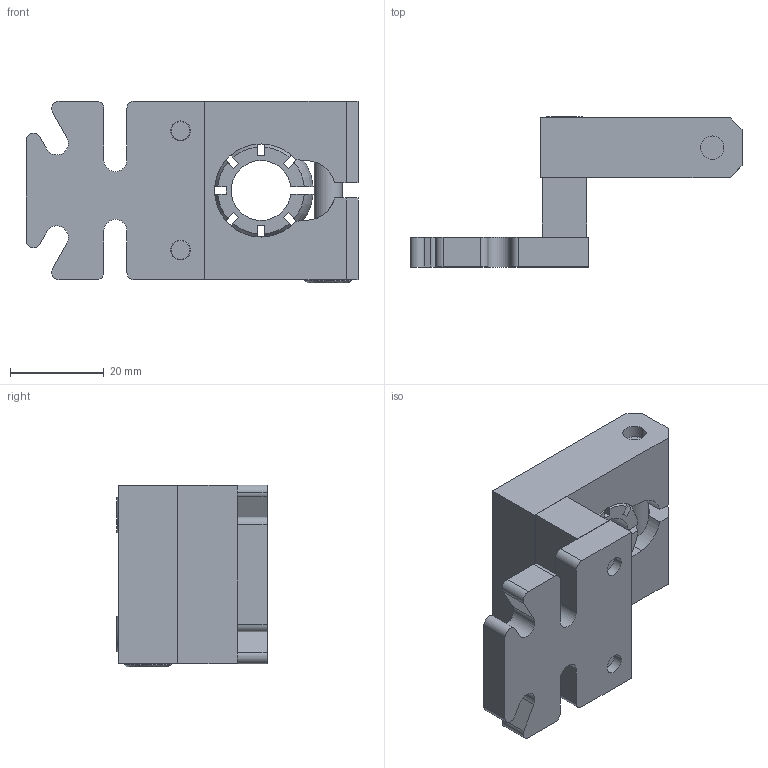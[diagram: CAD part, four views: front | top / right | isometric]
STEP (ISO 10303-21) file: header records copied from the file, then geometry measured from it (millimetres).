
FILE_DESCRIPTION (( 'STEP AP214' ), '1' );
FILE_NAME ('RTI-SGM-50-GMB-150.STEP', '2013-10-22T14:44:28', ( 'user' ), ( '' ), 'SwSTEP 2.0', 'SolidWorks 2009', '' );
FILE_SCHEMA (( 'AUTOMOTIVE_DESIGN' ));
Length unit declared in the file: inch
Products named in the file (10): RTI-SMB-50; .875 OD_.502 ID_Swivel_Ball; M6 WASHER; M6 S.H.C.S._M6x30mm; RTI-SM-SP-50; RTI-GMB-150; M5 WASHER; M5 S.H.C.S._M5x25mm; RTI-SGM-50-GMB-150
Assembly tree (11 placements, depth 3):
  RTI-SGM-50-GMB-150
    M5 S.H.C.S._M5x25mm  x2
    RTI-GMB-150
    RTI-SMB-50
      .875 OD_.502 ID_Swivel_Ball
      RTI-SMB-50
      M6 S.H.C.S._M6x30mm
      M6 WASHER
    M5 WASHER  x2
    RTI-SM-SP-50
Bounding box: 70.71 x 32 x 38.75 mm (x, y, z)
Volume: 29336.2 mm3; surface area: 17441.8 mm2
Topology: 10 solids, 10 shells, 1040 faces, 2699 edges, 1795 vertices
Faces by surface type: plane 632, bspline 314, cylinder 72, cone 12, torus 8, sphere 2
Entity records: 61793 total; most frequent: CARTESIAN_POINT 27873, ORIENTED_EDGE 5288, DIRECTION 3587, EDGE_CURVE 2644, VECTOR 1839, LINE 1839, VERTEX_POINT 1760, EDGE_LOOP 1152
